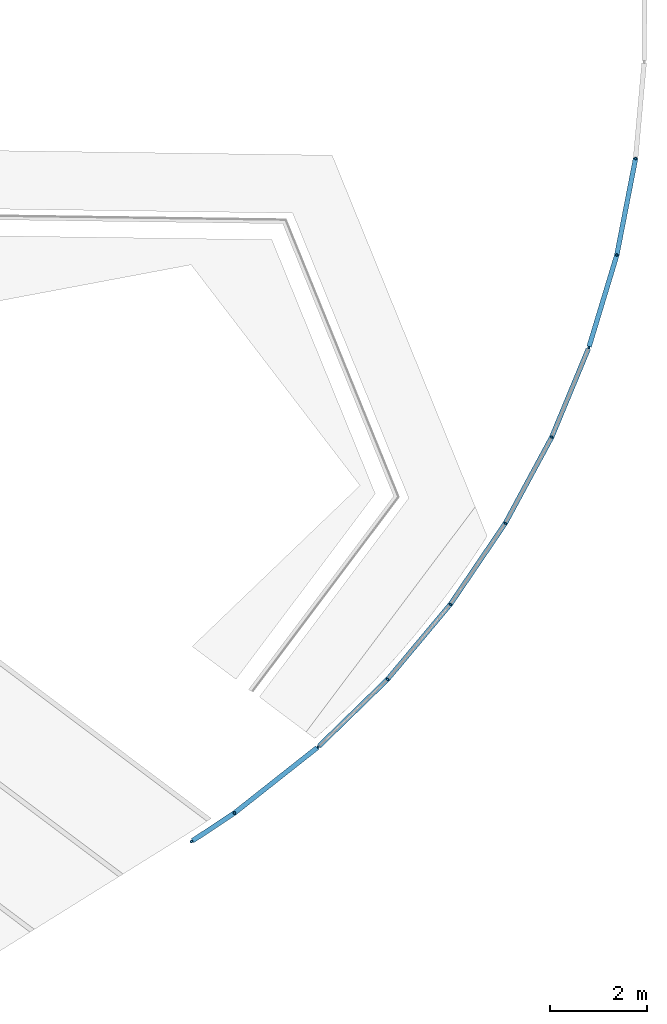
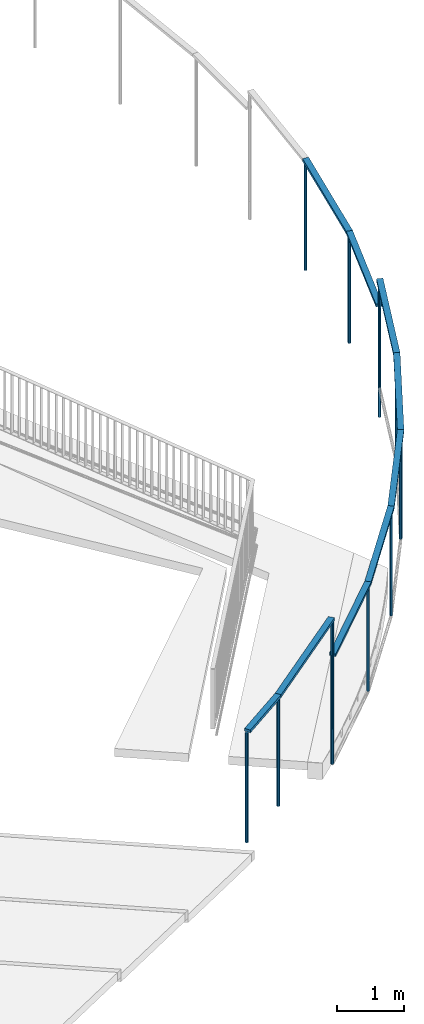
# One storey, part 14 of 33: 21 members, 3 elements without a shape of their own.
"""IFC2X3 building model written with IfcOpenShell, lengths in metres."""

import ifcopenshell
import ifcopenshell.guid

model = None  # the IFC model being written
_history = None  # IfcOwnerHistory: only IFC2X3 demands one
_inside = {}  # id of a spatial element -> (the spatial element, [elements in it])
_under = {}  # id of a project, library or spatial element -> (it, [spatial elements below it])
_declared = {}  # id of a project -> (the project, [libraries it declares])
_typed = {}  # id of a type object -> (the type object, [elements of that type])
_made_of = {}  # id of a material, layer set ... -> (it, [elements and type objects made of it])


def new_model(schema):
    """Start an empty IFC model of exactly this schema.

    Asked for "IFC4X3", IfcOpenShell would pick the latest addendum, in which some entities
    have other attributes; the version numbers below select the first issue.
    IFC2X3 requires an IfcOwnerHistory on every rooted entity: one is made here for all.
    """
    global model, _history
    if schema == "IFC4X3":
        model = ifcopenshell.file(schema_version=(4, 3, 0, 0))
    else:
        model = ifcopenshell.file(schema=schema)
    _inside.clear()
    _under.clear()
    _declared.clear()
    _typed.clear()
    _made_of.clear()
    _history = None
    if model.schema == "IFC2X3":
        org = make("IfcOrganization", Name="unknown")
        user = make(
            "IfcPersonAndOrganization",
            ThePerson=make("IfcPerson", FamilyName="unknown"),
            TheOrganization=org,
        )
        app = make(
            "IfcApplication",
            ApplicationDeveloper=org,
            Version="unknown",
            ApplicationFullName="unknown",
            ApplicationIdentifier="unknown",
        )
        _history = make(
            "IfcOwnerHistory",
            OwningUser=user,
            OwningApplication=app,
            ChangeAction="ADDED",
            CreationDate=0,
        )
    return model


def make(cls, **values):
    """One entity of the class cls with the attributes given. An attribute that is None is left unset."""
    return model.create_entity(
        cls, **{name: value for name, value in values.items() if value is not None}
    )


def entity(cls, *values):
    """Any entity or typed value of the class cls, its attributes in the order of the schema. None: left unset."""
    e = model.create_entity(cls)
    for i, value in enumerate(values):
        if value is not None:
            e[i] = value
    return e


def rooted(cls, **values):
    """An entity with a GlobalId (a new one), such as an element, a storey or a relation."""
    return make(cls, GlobalId=ifcopenshell.guid.new(), OwnerHistory=_history, **values)


def si_unit(unit_type, name, prefix=None):
    """IfcSIUnit, for example si_unit("LENGTHUNIT", "METRE", prefix="MILLI")."""
    return make("IfcSIUnit", UnitType=unit_type, Prefix=prefix, Name=name)


def converted_unit(unit_type, name, factor, base, dimensions=None, offset=None):
    """IfcConversionBasedUnit, such as the inch: factor (a typed value) times the base unit."""
    return make(
        "IfcConversionBasedUnit"
        if offset is None
        else "IfcConversionBasedUnitWithOffset",
        ConversionOffset=offset,
        Dimensions=None
        if dimensions is None
        else entity("IfcDimensionalExponents", *dimensions),
        UnitType=unit_type,
        Name=name,
        ConversionFactor=make(
            "IfcMeasureWithUnit", ValueComponent=factor, UnitComponent=base
        ),
    )


def derived_unit(unit_type, elements):
    """IfcDerivedUnit: a product of units, each with its exponent."""
    return make(
        "IfcDerivedUnit",
        Elements=[
            make("IfcDerivedUnitElement", Unit=unit, Exponent=power)
            for unit, power in elements
        ],
        UnitType=unit_type,
    )


def assignment(units):
    """IfcUnitAssignment: the units of a project."""
    return None if units is None else make("IfcUnitAssignment", Units=units)


def point(xyz):
    """IfcCartesianPoint."""
    return None if xyz is None else make("IfcCartesianPoint", Coordinates=xyz)


def direction(xyz):
    """IfcDirection."""
    return None if xyz is None else make("IfcDirection", DirectionRatios=xyz)


def frame(location, z_axis=None, x_axis=None):
    """IfcAxis2Placement3D, a coordinate frame: its origin and axes. An axis left out is left unset."""
    return make(
        "IfcAxis2Placement3D",
        Location=point(location),
        Axis=direction(z_axis),
        RefDirection=direction(x_axis),
    )


def frame_2d(location, x_axis=None):
    """IfcAxis2Placement2D, a coordinate frame in the plane: its origin and x axis."""
    return make(
        "IfcAxis2Placement2D", Location=point(location), RefDirection=direction(x_axis)
    )


def origin():
    """The frame at (0, 0, 0) with its axes left unset."""
    return frame((0.0, 0.0, 0.0))


def origin_2d_with_axis():
    """The frame at (0, 0) in the plane with the x axis (1, 0) written out."""
    return frame_2d((0.0, 0.0), x_axis=(1.0, 0.0))


def place(relative_to, where):
    """IfcLocalPlacement: puts the frame where relative to a parent placement (None: the world)."""
    return make(
        "IfcLocalPlacement", PlacementRelTo=relative_to, RelativePlacement=where
    )


def context(
    kind, dimensions, precision=None, world=None, true_north=None, identifier=None
):
    """IfcGeometricRepresentationContext, for example the 3D "Model" context."""
    return make(
        "IfcGeometricRepresentationContext",
        ContextIdentifier=identifier,
        ContextType=kind,
        CoordinateSpaceDimension=dimensions,
        Precision=precision,
        WorldCoordinateSystem=world,
        TrueNorth=true_north,
    )


def subcontext(parent, identifier, kind, view, scale=None):
    """IfcGeometricRepresentationSubContext, for example "Body" below "Model"."""
    return make(
        "IfcGeometricRepresentationSubContext",
        ContextIdentifier=identifier,
        ContextType=kind,
        ParentContext=parent,
        TargetScale=scale,
        TargetView=view,
    )


def project(units=None, contexts=None):
    """IfcProject with its units and contexts."""
    return rooted(
        "IfcProject",
        Name="project",
        RepresentationContexts=contexts,
        UnitsInContext=assignment(units),
    )


def spatial(cls, under=None, at=None, **own):
    """A site, building, storey or space (cls), placed at a placement, below another one or the project."""
    s = rooted(cls, ObjectPlacement=at, **own)
    if under is not None:
        _under.setdefault(under.id(), (under, []))[1].append(s)
    return s


def profile(cls, at=None, kind="AREA", **sizes):
    """A parametric profile (cls). Its sizes go by their IFC names, for example OverallWidth=200.0."""
    return make(cls, ProfileType=kind, Position=at, **sizes)


def rectangle(**sizes):
    """IfcRectangleProfileDef."""
    return profile("IfcRectangleProfileDef", **sizes)


def circle(**sizes):
    """IfcCircleProfileDef."""
    return profile("IfcCircleProfileDef", **sizes)


def extrude(swept, where, along, depth):
    """IfcExtrudedAreaSolid: the profile swept, set in the frame where, extruded along a direction by depth."""
    return make(
        "IfcExtrudedAreaSolid",
        SweptArea=swept,
        Position=where,
        ExtrudedDirection=direction(along),
        Depth=depth,
    )


def clip(a, b, op="DIFFERENCE"):
    """IfcBooleanClippingResult: the solid a cut by the half space b."""
    return make(
        "IfcBooleanClippingResult", Operator=op, FirstOperand=a, SecondOperand=b
    )


def halfspace(plane, agree):
    """IfcHalfSpaceSolid: all space on one side of the plane z = 0 of the frame plane."""
    return make(
        "IfcHalfSpaceSolid",
        BaseSurface=make("IfcPlane", Position=plane),
        AgreementFlag=agree,
    )


def shape(context_of_items, identifier, shape_type, items):
    """IfcShapeRepresentation: the items that make up one representation, for example the "Body"."""
    return make(
        "IfcShapeRepresentation",
        ContextOfItems=context_of_items,
        RepresentationIdentifier=identifier,
        RepresentationType=shape_type,
        Items=items,
    )


def source(mapping_origin, context_of_items, identifier, shape_type, items):
    """IfcRepresentationMap: a shape defined once, which mapped items show again and again."""
    return make(
        "IfcRepresentationMap",
        MappingOrigin=mapping_origin,
        MappedRepresentation=shape(context_of_items, identifier, shape_type, items),
    )


def transform(
    local_origin,
    x_axis=None,
    y_axis=None,
    z_axis=None,
    scale=None,
    scale2=None,
    scale3=None,
    uniform=True,
):
    """IfcCartesianTransformationOperator3D, or its non-uniform kind. x_axis, y_axis, z_axis: its Axis1, 2, 3."""
    if uniform:
        return make(
            "IfcCartesianTransformationOperator3D",
            Axis1=direction(x_axis),
            Axis2=direction(y_axis),
            LocalOrigin=point(local_origin),
            Scale=scale,
            Axis3=direction(z_axis),
        )
    return make(
        "IfcCartesianTransformationOperator3DnonUniform",
        Axis1=direction(x_axis),
        Axis2=direction(y_axis),
        LocalOrigin=point(local_origin),
        Scale=scale,
        Axis3=direction(z_axis),
        Scale2=scale2,
        Scale3=scale3,
    )


def mapped(mapping_source, mapping_target):
    """IfcMappedItem: shows the shape of a source again, moved by a transform."""
    return make(
        "IfcMappedItem", MappingSource=mapping_source, MappingTarget=mapping_target
    )


def material(Name=None, Category=None):
    """IfcMaterial."""
    return make("IfcMaterial", Name=Name, Category=Category)


def made_of(thing, what):
    """Note that an element or type object is made of a material, layer set ...; save() writes the relation."""
    if what is not None:
        _made_of.setdefault(what.id(), (what, []))[1].append(thing)
    return thing


def type_object(cls, material=None, **own):
    """A type object (cls), such as IfcWallType, which elements share."""
    return made_of(rooted(cls, **own), material)


def type_shapes(of_type, sources):
    """Give a type object the sources (RepresentationMaps) that its elements show as mapped items."""
    of_type.RepresentationMaps = sources


def element(
    cls,
    number,
    at=None,
    inside=None,
    cuts=None,
    type_object=None,
    material=None,
    context=None,
    identifier="Body",
    shape_type=None,
    held_by="IfcProductDefinitionShape",
    body=None,
    shapes=None,
    **own,
):
    """One element of the class cls, such as IfcWall. Its Tag is "e" and its number.

    at: its placement. inside: the storey or other place that contains it. cuts: it is an
    opening in that element (IfcRelVoidsElement). A single representation is given by context,
    identifier, shape_type and body (its items); several are given by shapes. held_by: the class
    of the entity that holds the representations. save() writes the other relations.
    """
    e = rooted(cls, Tag="e%d" % number, ObjectPlacement=at, **own)
    if body is not None:
        shapes = [shape(context, identifier, shape_type, body)]
    if shapes is not None:
        e.Representation = make(held_by, Representations=shapes)
    if inside is not None:
        _inside.setdefault(inside.id(), (inside, []))[1].append(e)
    if cuts is not None:
        rooted(
            "IfcRelVoidsElement", RelatingBuildingElement=cuts, RelatedOpeningElement=e
        )
    if type_object is not None:
        _typed.setdefault(type_object.id(), (type_object, []))[1].append(e)
    return made_of(e, material)


def aggregate(whole, parts):
    """IfcRelAggregates: a whole, such as a stair, and the parts it consists of."""
    return rooted("IfcRelAggregates", RelatingObject=whole, RelatedObjects=parts)


def save(model, path):
    """Write the relations noted so far, then the file.

    IfcRelAggregates (storeys below a building ...), IfcRelContainedInSpatialStructure (elements
    in a storey), IfcRelDefinesByType, IfcRelAssociatesMaterial and IfcRelDeclares: one each for
    every whole, place, type object, material and project.
    """
    for whole, parts in _under.values():
        aggregate(whole, parts)
    for where, things in _inside.values():
        rooted(
            "IfcRelContainedInSpatialStructure",
            RelatedElements=things,
            RelatingStructure=where,
        )
    for kind, things in _typed.values():
        rooted("IfcRelDefinesByType", RelatedObjects=things, RelatingType=kind)
    for what, things in _made_of.values():
        rooted("IfcRelAssociatesMaterial", RelatedObjects=things, RelatingMaterial=what)
    for by, libraries in _declared.values():
        rooted("IfcRelDeclares", RelatingContext=by, RelatedDefinitions=libraries)
    model.write(path)


model = new_model("IFC2X3")

# Units and contexts
model_context = context("Model", 3, precision=1e-05, world=origin(), true_north=direction((6.123031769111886e-17, 1.0)))
body_context = subcontext(model_context, "Body", "Model", "MODEL_VIEW")
ifc_project = project(units=[si_unit("LENGTHUNIT", "METRE"), si_unit("AREAUNIT", "SQUARE_METRE"), si_unit("VOLUMEUNIT", "CUBIC_METRE"), converted_unit("PLANEANGLEUNIT", "DEGREE", entity("IfcRatioMeasure", 0.017453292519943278), si_unit("PLANEANGLEUNIT", "RADIAN"), dimensions=[0, 0, 0, 0, 0, 0, 0]), si_unit("MASSUNIT", "GRAM", prefix="KILO"), derived_unit("MASSDENSITYUNIT", [(si_unit("MASSUNIT", "GRAM", prefix="KILO"), 1), (si_unit("LENGTHUNIT", "METRE"), -3)]), derived_unit("IONCONCENTRATIONUNIT", [(si_unit("MASSUNIT", "GRAM", prefix="KILO"), 1), (si_unit("LENGTHUNIT", "METRE"), -3)]), derived_unit("MOMENTOFINERTIAUNIT", [(si_unit("LENGTHUNIT", "METRE"), 4)]), si_unit("TIMEUNIT", "SECOND"), si_unit("FREQUENCYUNIT", "HERTZ"), si_unit("THERMODYNAMICTEMPERATUREUNIT", "DEGREE_CELSIUS"), derived_unit("THERMALTRANSMITTANCEUNIT", [(si_unit("MASSUNIT", "GRAM", prefix="KILO"), 1), (si_unit("THERMODYNAMICTEMPERATUREUNIT", "KELVIN"), -1), (si_unit("TIMEUNIT", "SECOND"), -3)]), derived_unit("THERMALCONDUCTANCEUNIT", [(si_unit("MASSUNIT", "GRAM", prefix="KILO"), 1), (si_unit("THERMODYNAMICTEMPERATUREUNIT", "KELVIN"), -1), (si_unit("TIMEUNIT", "SECOND"), -3), (si_unit("LENGTHUNIT", "METRE"), 1)]), derived_unit("VOLUMETRICFLOWRATEUNIT", [(si_unit("LENGTHUNIT", "METRE"), 3), (si_unit("TIMEUNIT", "SECOND"), -1)]), derived_unit("MASSFLOWRATEUNIT", [(si_unit("MASSUNIT", "GRAM", prefix="KILO"), 1), (si_unit("TIMEUNIT", "SECOND"), -1)]), derived_unit("ROTATIONALFREQUENCYUNIT", [(si_unit("TIMEUNIT", "SECOND"), -1)]), si_unit("ELECTRICCURRENTUNIT", "AMPERE"), si_unit("ELECTRICVOLTAGEUNIT", "VOLT"), si_unit("POWERUNIT", "WATT"), si_unit("FORCEUNIT", "NEWTON", prefix="KILO"), si_unit("ILLUMINANCEUNIT", "LUX"), si_unit("LUMINOUSFLUXUNIT", "LUMEN"), si_unit("LUMINOUSINTENSITYUNIT", "CANDELA"), derived_unit("USERDEFINED", [(si_unit("MASSUNIT", "GRAM", prefix="KILO"), -1), (si_unit("LENGTHUNIT", "METRE"), -2), (si_unit("TIMEUNIT", "SECOND"), 3), (si_unit("LUMINOUSFLUXUNIT", "LUMEN"), 1)]), derived_unit("USERDEFINED", [(si_unit("MASSUNIT", "GRAM", prefix="KILO"), 1), (si_unit("TIMEUNIT", "SECOND"), -3), (si_unit("LENGTHUNIT", "METRE"), 3), (si_unit("ELECTRICCURRENTUNIT", "AMPERE"), -2)]), derived_unit("SOUNDPOWERUNIT", [(si_unit("MASSUNIT", "GRAM", prefix="KILO"), 1), (si_unit("TIMEUNIT", "SECOND"), -3), (si_unit("LENGTHUNIT", "METRE"), 2)]), derived_unit("SOUNDPRESSUREUNIT", [(si_unit("MASSUNIT", "GRAM", prefix="KILO"), 1), (si_unit("LENGTHUNIT", "METRE"), -1), (si_unit("TIMEUNIT", "SECOND"), -2)]), derived_unit("LINEARVELOCITYUNIT", [(si_unit("LENGTHUNIT", "METRE"), 1), (si_unit("TIMEUNIT", "SECOND"), -1)]), si_unit("PRESSUREUNIT", "PASCAL"), derived_unit("USERDEFINED", [(si_unit("MASSUNIT", "GRAM", prefix="KILO"), 1), (si_unit("LENGTHUNIT", "METRE"), -2), (si_unit("TIMEUNIT", "SECOND"), -2)]), derived_unit("LINEARFORCEUNIT", [(si_unit("MASSUNIT", "GRAM", prefix="KILO"), 1), (si_unit("TIMEUNIT", "SECOND"), -2)]), derived_unit("PLANARFORCEUNIT", [(si_unit("MASSUNIT", "GRAM", prefix="KILO"), 1), (si_unit("LENGTHUNIT", "METRE"), -1), (si_unit("TIMEUNIT", "SECOND"), -2)]), derived_unit("SPECIFICHEATCAPACITYUNIT", [(si_unit("THERMODYNAMICTEMPERATUREUNIT", "KELVIN"), -1), (si_unit("LENGTHUNIT", "METRE"), 2), (si_unit("TIMEUNIT", "SECOND"), -2)]), derived_unit("HEATINGVALUEUNIT", [(si_unit("LENGTHUNIT", "METRE"), 2), (si_unit("TIMEUNIT", "SECOND"), -2)]), derived_unit("VAPORPERMEABILITYUNIT", [(si_unit("LENGTHUNIT", "METRE"), -1), (si_unit("TIMEUNIT", "SECOND"), 1)]), derived_unit("DYNAMICVISCOSITYUNIT", [(si_unit("MASSUNIT", "GRAM", prefix="KILO"), 1), (si_unit("TIMEUNIT", "SECOND"), -1), (si_unit("LENGTHUNIT", "METRE"), -1)]), derived_unit("THERMALEXPANSIONCOEFFICIENTUNIT", [(si_unit("THERMODYNAMICTEMPERATUREUNIT", "KELVIN"), -1)]), derived_unit("MODULUSOFELASTICITYUNIT", [(si_unit("MASSUNIT", "GRAM", prefix="KILO"), 1), (si_unit("LENGTHUNIT", "METRE"), -1), (si_unit("TIMEUNIT", "SECOND"), -2)]), derived_unit("ISOTHERMALMOISTURECAPACITYUNIT", [(si_unit("LENGTHUNIT", "METRE"), 3), (si_unit("MASSUNIT", "GRAM", prefix="KILO"), -1)]), derived_unit("MOISTUREDIFFUSIVITYUNIT", [(si_unit("TIMEUNIT", "SECOND"), -1), (si_unit("LENGTHUNIT", "METRE"), 2)])], contexts=[model_context])

# Site, building, storey
site_placement = place(None, origin())
site = spatial("IfcSite", under=ifc_project, at=site_placement, Name="Superficie", CompositionType="ELEMENT")
building_placement = place(site_placement, frame((0.0, 0.0, 235.0), z_axis=(0.0, 0.0, 1.0), x_axis=(-0.7996477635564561, 0.6004693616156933, 0.0)))
building = spatial("IfcBuilding", under=site, at=building_placement, CompositionType="ELEMENT")
storey_placement = place(building_placement, origin())
storey = spatial("IfcBuildingStorey", under=building, at=storey_placement, Name="P0- Escola", CompositionType="ELEMENT", Elevation=0.0)

# Curtain wall, member
curtain_wall_type = type_object("IfcCurtainWallType", Name="Muro cortina:SER EXT- Tanca exterior", PredefinedType="NOTDEFINED")
curtain_wall_1_placement = place(storey_placement, origin())
curtain_wall_1 = element("IfcCurtainWall", 1, at=curtain_wall_1_placement, inside=storey, type_object=curtain_wall_type, Name="Muro cortina:SER EXT- Tanca exterior", ObjectType="Muro cortina:SER EXT- Tanca exterior")
ifc_material_1 = material(Name="Acero inoxidable")
member_type_1 = type_object("IfcMemberType", Name="Montante circular:Perfil Tanca exterior", PredefinedType="MULLION", material=ifc_material_1)
shared_shape_1 = source(origin(), body_context, "Body", "SweptSolid", [
    extrude(circle(Radius=0.025, at=frame_2d((-2.1149748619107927e-18, -4.0388614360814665e-17), x_axis=(1.0, 0.0))), frame((0.0, 0.0, -2.0), z_axis=(0.0, 0.0, 1.0), x_axis=(-1.0, 0.0, 0.0)), (0.0, 0.0, 1.0), 1.9999999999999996),
])
type_shapes(member_type_1, [shared_shape_1])
member_1_placement = place(curtain_wall_1_placement, frame((-11.086690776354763, -40.76405879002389, -3.9749999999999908), z_axis=(0.0, 0.0, -1.0), x_axis=(0.3091641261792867, 0.9510086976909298, 0.0)))
member_1 = element("IfcMember", 2, at=member_1_placement, type_object=member_type_1, material=ifc_material_1, Name="Montante circular:Perfil Tanca exterior", ObjectType="Montante circular:Perfil Tanca exterior", context=body_context, shape_type="MappedRepresentation", body=[
    mapped(shared_shape_1, transform((0.0, 0.0, 0.0), scale=1.0)),
])

# Curtain wall, members
curtain_wall_2_placement = place(storey_placement, origin())
curtain_wall_2 = element("IfcCurtainWall", 3, at=curtain_wall_2_placement, inside=storey, type_object=curtain_wall_type, Name="Muro cortina:SER EXT- Tanca exterior", ObjectType="Muro cortina:SER EXT- Tanca exterior")
member_2_placement = place(curtain_wall_2_placement, frame((-10.485725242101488, -54.63118696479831, -5.17499999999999), z_axis=(0.0, 0.0, -1.0), x_axis=(0.3904419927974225, -0.9206275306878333, 0.0)))
member_2 = element("IfcMember", 4, at=member_2_placement, type_object=member_type_1, material=ifc_material_1, Name="Montante circular:Perfil Tanca exterior", ObjectType="Montante circular:Perfil Tanca exterior", context=body_context, shape_type="MappedRepresentation", body=[
    mapped(shared_shape_1, transform((0.0, 0.0, 0.0), scale=1.0)),
])
member_3_placement = place(curtain_wall_2_placement, frame((-9.60222250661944, -56.44914465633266, -5.17499999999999), z_axis=(0.0, 0.0, -1.0), x_axis=(0.48261360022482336, -0.8758333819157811, 0.0)))
member_3 = element("IfcMember", 5, at=member_3_placement, type_object=member_type_1, material=ifc_material_1, Name="Montante circular:Perfil Tanca exterior", ObjectType="Montante circular:Perfil Tanca exterior", context=body_context, shape_type="MappedRepresentation", body=[
    mapped(shared_shape_1, transform((0.0, 0.0, 0.0), scale=1.0)),
])

# Member
member_type_2 = type_object("IfcMemberType", Name="Montante circular:Perfil Tanca exterior", PredefinedType="MULLION", material=ifc_material_1)
shared_shape_2 = source(origin(), body_context, "Body", "SweptSolid", [
    extrude(circle(Radius=0.025, at=frame_2d((-1.304992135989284e-31, 4.038861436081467e-17), x_axis=(1.0, 0.0))), frame((-0.025, 0.0, -2.0)), (0.0, 0.0, 1.0), 1.9999999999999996),
])
type_shapes(member_type_2, [shared_shape_2])
member_4_placement = place(curtain_wall_1_placement, frame((-11.652832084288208, -42.90593946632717, -1.97499999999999), z_axis=(0.0, 0.0, 1.0), x_axis=(-0.255543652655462, -0.9667975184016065, 0.0)))
member_4 = element("IfcMember", 6, at=member_4_placement, type_object=member_type_2, material=ifc_material_1, Name="Montante circular:Perfil Tanca exterior", ObjectType="Montante circular:Perfil Tanca exterior", context=body_context, shape_type="MappedRepresentation", body=[
    mapped(shared_shape_2, transform((0.0, 0.0, 0.0), scale=1.0)),
])

member_5_placement = place(curtain_wall_2_placement, frame((-11.176073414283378, -52.740326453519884, -3.17499999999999), z_axis=(0.0, 0.0, 1.0), x_axis=(-0.34295488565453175, 0.9393518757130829, 0.0)))
member_5 = element("IfcMember", 7, at=member_5_placement, type_object=member_type_2, material=ifc_material_1, Name="Montante circular:Perfil Tanca exterior", ObjectType="Montante circular:Perfil Tanca exterior", context=body_context, shape_type="MappedRepresentation", body=[
    mapped(shared_shape_2, transform((0.0, 0.0, 0.0), scale=1.0)),
])

member_type_3 = type_object("IfcMemberType", Name="Montante circular:Perfil Tanca exterior", PredefinedType="MULLION", material=ifc_material_1)
shared_shape_3 = source(origin(), body_context, "Body", "SweptSolid", [
    extrude(circle(Radius=0.025, at=frame_2d((1.3661718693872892e-31, -4.46185640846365e-17), x_axis=(1.0, 0.0))), frame((-0.025, 0.0, -2.0), z_axis=(0.0, 0.0, 1.0), x_axis=(-1.0, 0.0, 0.0)), (0.0, 0.0, 1.0), 1.9999999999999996),
])
type_shapes(member_type_3, [shared_shape_3])
member_6_placement = place(curtain_wall_1_placement, frame((-10.723837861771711, -39.743591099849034, -3.9749999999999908), z_axis=(0.0, 0.0, -1.0), x_axis=(0.3350260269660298, 0.9422088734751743, 0.0)))
member_6 = element("IfcMember", 8, at=member_6_placement, type_object=member_type_3, material=ifc_material_1, Name="Montante circular:Perfil Tanca exterior", ObjectType="Montante circular:Perfil Tanca exterior", context=body_context, shape_type="MappedRepresentation", body=[
    mapped(shared_shape_3, transform((0.0, 0.0, 0.0), scale=1.0)),
])

ifc_material_2 = material(Name="_Formigó- Solera- T1- STR")
member_type_4 = type_object("IfcMemberType", Name="Montante rectangular:Montante rectangular 100x50", PredefinedType="MULLION", material=ifc_material_2)
shared_shape_4 = source(origin(), body_context, "Body", "SweptSolid", [
    clip(clip(extrude(rectangle(XDim=0.1, YDim=0.05000000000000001, at=origin_2d_with_axis()), frame((-0.025000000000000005, 0.0, -1.0851406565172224), z_axis=(0.0, 0.0, 1.0), x_axis=(0.0, -1.0, 0.0)), (0.0, 0.0, 1.0), 1.0364882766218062), halfspace(frame((-0.3048, 0.0, -1.0830588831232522), z_axis=(0.0, 0.041599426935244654, -0.9991343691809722), x_axis=(0.0, 0.9991343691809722, 0.041599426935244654)), False)), halfspace(frame((-93.49000000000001, 91.4045145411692, -2.5477090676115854), z_axis=(0.0, 0.02731548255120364, 0.9996268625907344), x_axis=(1.0, 0.0, 0.0)), False)),
])
type_shapes(member_type_4, [shared_shape_4])
member_7_placement = place(curtain_wall_1_placement, frame((-10.723837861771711, -39.743591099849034, -1.92499999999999), z_axis=(0.3350260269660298, 0.9422088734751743, 0.0), x_axis=(0.0, 0.0, 1.0)))
member_7 = element("IfcMember", 9, at=member_7_placement, type_object=member_type_4, material=ifc_material_2, Name="Montante rectangular:Montante rectangular 100x50", ObjectType="Montante rectangular:Montante rectangular 100x50", context=body_context, shape_type="MappedRepresentation", body=[
    mapped(shared_shape_4, transform((0.0, 0.0, 0.0), scale=1.0)),
])

member_type_5 = type_object("IfcMemberType", Name="Montante rectangular:Montante rectangular 100x50", PredefinedType="MULLION", material=ifc_material_2)
shared_shape_5 = source(origin(), body_context, "Body", "SweptSolid", [
    clip(clip(extrude(rectangle(XDim=0.10000000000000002, YDim=0.05000000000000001, at=frame_2d((-6.591949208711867e-17, 0.0), x_axis=(1.0, 0.0))), frame((-0.025000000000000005, 0.0, -2.1681586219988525), z_axis=(0.0, 0.0, 1.0), x_axis=(0.0, -1.0, 0.0)), (0.0, 0.0, 1.0), 2.1702403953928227), halfspace(frame((91.39, 91.29435676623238, 2.9436815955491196), z_axis=(0.0, 0.055874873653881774, -0.9984377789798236), x_axis=(-1.0, 0.0, 0.0)), False)), halfspace(frame((-0.3048, 0.0, 0.0), z_axis=(0.0, 0.04159942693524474, 0.9991343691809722), x_axis=(0.0, 0.9991343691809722, -0.04159942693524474)), False)),
])
type_shapes(member_type_5, [shared_shape_5])
member_8_placement = place(curtain_wall_1_placement, frame((-11.086690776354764, -40.76405879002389, -1.92499999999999), z_axis=(0.255543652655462, 0.9667975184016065, 0.0), x_axis=(0.0, 0.0, 1.0)))
member_8 = element("IfcMember", 10, at=member_8_placement, type_object=member_type_5, material=ifc_material_2, Name="Montante rectangular:Montante rectangular 100x50", ObjectType="Montante rectangular:Montante rectangular 100x50", context=body_context, shape_type="MappedRepresentation", body=[
    mapped(shared_shape_5, transform((0.0, 0.0, 0.0), scale=1.0)),
])

aggregate(curtain_wall_1, [member_1, member_4, member_6, member_7, member_8])

# Curtain wall, members
curtain_wall_3_placement = place(storey_placement, origin())
curtain_wall_3 = element("IfcCurtainWall", 11, at=curtain_wall_3_placement, inside=storey, type_object=curtain_wall_type, Name="Muro cortina:SER EXT- Tanca exterior", ObjectType="Muro cortina:SER EXT- Tanca exterior")
member_type_6 = type_object("IfcMemberType", Name="Montante circular:Perfil Tanca exterior", PredefinedType="MULLION", material=ifc_material_1)
shared_shape_6 = source(origin(), body_context, "Body", "SweptSolid", [
    extrude(circle(Radius=0.025, at=frame_2d((-2.1149748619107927e-18, -4.0388614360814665e-17), x_axis=(1.0, 0.0))), frame((0.0, 0.0, -1.9500000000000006), z_axis=(0.0, 0.0, 1.0), x_axis=(-1.0, 0.0, 0.0)), (0.0, 0.0, 1.0), 1.9500000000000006),
])
type_shapes(member_type_6, [shared_shape_6])
member_9_placement = place(curtain_wall_3_placement, frame((-11.951597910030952, -44.84255791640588, -4.624999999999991), z_axis=(0.0, 0.0, -1.0), x_axis=(0.10343907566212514, 0.9946357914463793, 0.0)))
member_9 = element("IfcMember", 12, at=member_9_placement, type_object=member_type_6, material=ifc_material_1, Name="Montante circular:Perfil Tanca exterior", ObjectType="Montante circular:Perfil Tanca exterior", context=body_context, shape_type="MappedRepresentation", body=[
    mapped(shared_shape_6, transform((0.0, 0.0, 0.0), scale=1.0)),
])
member_10_placement = place(curtain_wall_3_placement, frame((-12.057894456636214, -46.849210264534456, -4.624999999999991), z_axis=(0.0, 0.0, -1.0), x_axis=(0.0, 1.0, 0.0)))
member_10 = element("IfcMember", 13, at=member_10_placement, type_object=member_type_6, material=ifc_material_1, Name="Montante circular:Perfil Tanca exterior", ObjectType="Montante circular:Perfil Tanca exterior", context=body_context, shape_type="MappedRepresentation", body=[
    mapped(shared_shape_6, transform((0.0, 0.0, 0.0), scale=1.0)),
])
member_11_placement = place(curtain_wall_3_placement, frame((-11.960511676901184, -48.8563149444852, -4.624999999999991), z_axis=(0.0, 0.0, -1.0), x_axis=(-0.09902029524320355, 0.9950854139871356, 0.0)))
member_11 = element("IfcMember", 14, at=member_11_placement, type_object=member_type_6, material=ifc_material_1, Name="Montante circular:Perfil Tanca exterior", ObjectType="Montante circular:Perfil Tanca exterior", context=body_context, shape_type="MappedRepresentation", body=[
    mapped(shared_shape_6, transform((0.0, 0.0, 0.0), scale=1.0)),
])
member_12_placement = place(curtain_wall_3_placement, frame((-11.66077588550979, -50.84164838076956, -4.624999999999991), z_axis=(0.0, 0.0, -1.0), x_axis=(-0.19916321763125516, 0.9799663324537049, 0.0)))
member_12 = element("IfcMember", 15, at=member_12_placement, type_object=member_type_6, material=ifc_material_1, Name="Montante circular:Perfil Tanca exterior", ObjectType="Montante circular:Perfil Tanca exterior", context=body_context, shape_type="MappedRepresentation", body=[
    mapped(shared_shape_6, transform((0.0, 0.0, 0.0), scale=1.0)),
])
member_type_7 = type_object("IfcMemberType", Name="Montante circular:Perfil Tanca exterior", PredefinedType="MULLION", material=ifc_material_1)
shared_shape_7 = source(origin(), body_context, "Body", "SweptSolid", [
    extrude(circle(Radius=0.025, at=frame_2d((-1.304992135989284e-31, 4.038861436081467e-17), x_axis=(1.0, 0.0))), frame((-0.025, 0.0, -1.9500000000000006)), (0.0, 0.0, 1.0), 1.9500000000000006),
])
type_shapes(member_type_7, [shared_shape_7])
member_13_placement = place(curtain_wall_3_placement, frame((-11.161278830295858, -52.78804384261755, -2.67499999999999), z_axis=(0.0, 0.0, 1.0), x_axis=(0.24857206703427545, -0.968613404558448, 0.0)))
member_13 = element("IfcMember", 16, at=member_13_placement, type_object=member_type_7, material=ifc_material_1, Name="Montante circular:Perfil Tanca exterior", ObjectType="Montante circular:Perfil Tanca exterior", context=body_context, shape_type="MappedRepresentation", body=[
    mapped(shared_shape_7, transform((0.0, 0.0, 0.0), scale=1.0)),
])
member_type_8 = type_object("IfcMemberType", Name="Montante circular:Perfil Tanca exterior", PredefinedType="MULLION", material=ifc_material_1)
shared_shape_8 = source(origin(), body_context, "Body", "SweptSolid", [
    extrude(circle(Radius=0.025, at=frame_2d((1.3661718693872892e-31, -4.46185640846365e-17), x_axis=(1.0, 0.0))), frame((-0.025, 0.0, -2.0), z_axis=(0.0, 0.0, 1.0), x_axis=(-1.0, 0.0, 0.0)), (0.0, 0.0, 1.0), 2.000000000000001),
])
type_shapes(member_type_8, [shared_shape_8])
member_14_placement = place(curtain_wall_3_placement, frame((-11.642714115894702, -42.85697402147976, -4.624999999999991), z_axis=(0.0, 0.0, -1.0), x_axis=(0.15371438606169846, 0.9881153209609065, 0.0)))
member_14 = element("IfcMember", 17, at=member_14_placement, type_object=member_type_8, material=ifc_material_1, Name="Montante circular:Perfil Tanca exterior", ObjectType="Montante circular:Perfil Tanca exterior", context=body_context, shape_type="MappedRepresentation", body=[
    mapped(shared_shape_8, transform((0.0, 0.0, 0.0), scale=1.0)),
])
member_type_9 = type_object("IfcMemberType", Name="Montante rectangular:Montante rectangular 100x50", PredefinedType="MULLION", material=ifc_material_2)
shared_shape_9 = source(origin(), body_context, "Body", "SweptSolid", [
    clip(clip(extrude(rectangle(XDim=0.10000000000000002, YDim=0.05000000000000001, at=frame_2d((-5.551115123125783e-17, 0.0), x_axis=(1.0, 0.0))), frame((-0.025000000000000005, 0.0, -1.9620030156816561), z_axis=(0.0, 0.0, 1.0), x_axis=(0.0, -1.0, 0.0)), (0.0, 0.0, 1.0), 1.9644759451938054), halfspace(frame((-0.3048, 0.0, -1.9594657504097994), z_axis=(0.0, 0.05068009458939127, -0.9987149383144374), x_axis=(0.0, 0.9987149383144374, 0.05068009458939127)), False)), halfspace(frame((-93.44, 91.31995995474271, -4.63412359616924), z_axis=(0.0, 0.050680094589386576, 0.9987149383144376), x_axis=(1.0, 0.0, 0.0)), False)),
])
type_shapes(member_type_9, [shared_shape_9])
member_15_placement = place(curtain_wall_3_placement, frame((-11.650399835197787, -42.9063797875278, -2.6249999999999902), z_axis=(0.15371438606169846, 0.9881153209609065, 0.0), x_axis=(0.0, 0.0, 1.0)))
member_15 = element("IfcMember", 18, at=member_15_placement, type_object=member_type_9, material=ifc_material_2, Name="Montante rectangular:Montante rectangular 100x50", ObjectType="Montante rectangular:Montante rectangular 100x50", context=body_context, shape_type="MappedRepresentation", body=[
    mapped(shared_shape_9, transform((0.0, 0.0, 0.0), scale=1.0)),
])
member_type_10 = type_object("IfcMemberType", Name="Montante rectangular:Montante rectangular 100x50", PredefinedType="MULLION", material=ifc_material_2)
shared_shape_10 = source(origin(), body_context, "Body", "SweptSolid", [
    clip(clip(extrude(rectangle(XDim=0.1, YDim=0.05000000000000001, at=origin_2d_with_axis()), frame((-0.025000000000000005, 0.0, -2.0120030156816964), z_axis=(0.0, 0.0, 1.0), x_axis=(0.0, -1.0, 0.0)), (0.0, 0.0, 1.0), 2.014540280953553), halfspace(frame((-0.3048, 0.0, -2.00946575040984), z_axis=(0.0, 0.05068009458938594, -0.9987149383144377), x_axis=(0.0, 0.9987149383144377, 0.05068009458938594)), False)), halfspace(frame((-0.3048, 0.0, 0.0), z_axis=(0.0, 0.050680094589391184, 0.9987149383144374), x_axis=(0.0, 0.9987149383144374, -0.050680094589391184)), False)),
])
type_shapes(member_type_10, [shared_shape_10])
member_16_placement = place(curtain_wall_3_placement, frame((-11.951597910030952, -44.84255791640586, -2.6249999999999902), z_axis=(0.05289791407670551, 0.9985999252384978, 0.0), x_axis=(0.0, 0.0, 1.0)))
member_16 = element("IfcMember", 19, at=member_16_placement, type_object=member_type_10, material=ifc_material_2, Name="Montante rectangular:Montante rectangular 100x50", ObjectType="Montante rectangular:Montante rectangular 100x50", context=body_context, shape_type="MappedRepresentation", body=[
    mapped(shared_shape_10, transform((0.0, 0.0, 0.0), scale=1.0)),
])
member_type_11 = type_object("IfcMemberType", Name="Montante rectangular:Montante rectangular 100x50", PredefinedType="MULLION", material=ifc_material_2)
shared_shape_11 = source(origin(), body_context, "Body", "SweptSolid", [
    clip(clip(extrude(rectangle(XDim=0.1, YDim=0.05000000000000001, at=origin_2d_with_axis()), frame((-0.025000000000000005, 0.0, -2.012001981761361), z_axis=(0.0, 0.0, 1.0), x_axis=(0.0, -1.0, 0.0)), (0.0, 0.0, 1.0), 2.014539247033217), halfspace(frame((-0.3048, 0.0, -2.009465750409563), z_axis=(0.0, 0.050659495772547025, -0.9987159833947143), x_axis=(0.0, 0.9987159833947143, 0.050659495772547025)), False)), halfspace(frame((-0.3048, 0.0, 0.0), z_axis=(0.0, 0.0506800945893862, 0.9987149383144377), x_axis=(0.0, 0.9987149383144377, -0.0506800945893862)), False)),
])
type_shapes(member_type_11, [shared_shape_11])
member_17_placement = place(curtain_wall_3_placement, frame((-12.057894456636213, -46.849210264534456, -2.6249999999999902), z_axis=(-0.048462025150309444, 0.998825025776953, 0.0), x_axis=(0.0, 0.0, 1.0)))
member_17 = element("IfcMember", 20, at=member_17_placement, type_object=member_type_11, material=ifc_material_2, Name="Montante rectangular:Montante rectangular 100x50", ObjectType="Montante rectangular:Montante rectangular 100x50", context=body_context, shape_type="MappedRepresentation", body=[
    mapped(shared_shape_11, transform((0.0, 0.0, 0.0), scale=1.0)),
])
member_type_12 = type_object("IfcMemberType", Name="Montante rectangular:Montante rectangular 100x50", PredefinedType="MULLION", material=ifc_material_2)
shared_shape_12 = source(origin(), body_context, "Body", "SweptSolid", [
    clip(clip(extrude(rectangle(XDim=0.1, YDim=0.05000000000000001, at=origin_2d_with_axis()), frame((-0.025000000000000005, 0.0, -2.0103684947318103), z_axis=(0.0, 0.0, 1.0), x_axis=(0.0, -1.0, 0.0)), (0.0, 0.0, 1.0), 2.0129047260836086), halfspace(frame((-0.3048, 0.0, -2.0078322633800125), z_axis=(0.0, 0.05065949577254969, -0.9987159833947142), x_axis=(0.0, 0.9987159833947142, 0.05065949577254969)), False)), halfspace(frame((-0.3048, 0.0, 0.0), z_axis=(0.0, 0.05065949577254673, 0.9987159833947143), x_axis=(0.0, 0.9987159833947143, -0.05065949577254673)), False)),
])
type_shapes(member_type_12, [shared_shape_12])
member_18_placement = place(curtain_wall_3_placement, frame((-11.96051167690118, -48.85631494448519, -2.6249999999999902), z_axis=(-0.14928328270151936, 0.9887944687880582, 0.0), x_axis=(0.0, 0.0, 1.0)))
member_18 = element("IfcMember", 21, at=member_18_placement, type_object=member_type_12, material=ifc_material_2, Name="Montante rectangular:Montante rectangular 100x50", ObjectType="Montante rectangular:Montante rectangular 100x50", context=body_context, shape_type="MappedRepresentation", body=[
    mapped(shared_shape_12, transform((0.0, 0.0, 0.0), scale=1.0)),
])
member_type_13 = type_object("IfcMemberType", Name="Montante rectangular:Montante rectangular 100x50", PredefinedType="MULLION", material=ifc_material_2)
shared_shape_13 = source(origin(), body_context, "Body", "SweptSolid", [
    clip(clip(extrude(rectangle(XDim=0.1, YDim=0.05000000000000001, at=origin_2d_with_axis()), frame((-0.025000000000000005, 0.0, -1.9619386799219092), z_axis=(0.0, 0.0, 1.0), x_axis=(0.0, -1.0, 0.0)), (0.0, 0.0, 1.0), 1.9644749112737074), halfspace(frame((91.39, 91.31995995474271, 2.6746578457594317), z_axis=(0.0, 0.05068009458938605, -0.9987149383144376), x_axis=(-1.0, 0.0, 0.0)), False)), halfspace(frame((-0.3048, 0.0, 0.0), z_axis=(0.0, 0.050659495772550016, 0.9987159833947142), x_axis=(0.0, 0.9987159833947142, -0.050659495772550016)), False)),
])
type_shapes(member_type_13, [shared_shape_13])
member_19_placement = place(curtain_wall_3_placement, frame((-11.660775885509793, -50.84164838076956, -2.6249999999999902), z_axis=(-0.24857206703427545, 0.968613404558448, 0.0), x_axis=(0.0, 0.0, 1.0)))
member_19 = element("IfcMember", 22, at=member_19_placement, type_object=member_type_13, material=ifc_material_2, Name="Montante rectangular:Montante rectangular 100x50", ObjectType="Montante rectangular:Montante rectangular 100x50", context=body_context, shape_type="MappedRepresentation", body=[
    mapped(shared_shape_13, transform((0.0, 0.0, 0.0), scale=1.0)),
])
aggregate(curtain_wall_3, [member_9, member_10, member_11, member_12, member_13, member_14, member_15, member_16, member_17, member_18, member_19])

# Member
member_type_14 = type_object("IfcMemberType", Name="Montante rectangular:Montante rectangular 100x50", PredefinedType="MULLION", material=ifc_material_2)
shared_shape_14 = source(origin(), body_context, "Body", "SweptSolid", [
    clip(clip(extrude(rectangle(XDim=0.1, YDim=0.05000000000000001, at=origin_2d_with_axis()), frame((-0.025000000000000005, 0.0, -1.96543118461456), z_axis=(0.0, 0.0, 1.0), x_axis=(0.0, -1.0, 0.0)), (0.0, 0.0, 1.0), 1.9679912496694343), halfspace(frame((91.39, 91.32342219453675, -6.6290719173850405), z_axis=(0.0, -0.0510287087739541, -0.9986971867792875), x_axis=(-1.0, 0.0, 0.0)), False)), halfspace(frame((0.3048, 0.0, 0.0), z_axis=(0.0, -0.05113431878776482, 0.9986917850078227), x_axis=(0.0, -0.9986917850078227, -0.05113431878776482)), False)),
])
type_shapes(member_type_14, [shared_shape_14])
member_20_placement = place(curtain_wall_2_placement, frame((-10.485725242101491, -54.63118696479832, -3.1249999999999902), z_axis=(0.3429548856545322, -0.9393518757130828, 0.0), x_axis=(0.0, 0.0, 1.0)))
member_20 = element("IfcMember", 23, at=member_20_placement, type_object=member_type_14, material=ifc_material_2, Name="Montante rectangular:Montante rectangular 100x50", ObjectType="Montante rectangular:Montante rectangular 100x50", context=body_context, shape_type="MappedRepresentation", body=[
    mapped(shared_shape_14, transform((0.0, 0.0, 0.0), scale=1.0)),
])

member_type_15 = type_object("IfcMemberType", Name="Montante rectangular:Montante rectangular 100x50", PredefinedType="MULLION", material=ifc_material_2)
shared_shape_15 = source(origin(), body_context, "Body", "SweptSolid", [
    clip(clip(extrude(rectangle(XDim=0.1, YDim=0.05000000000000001, at=origin_2d_with_axis()), frame((-0.025000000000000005, 0.0, -2.023833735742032), z_axis=(0.0, 0.0, 1.0), x_axis=(0.0, -1.0, 0.0)), (0.0, 0.0, 1.0), 2.026393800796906), halfspace(frame((0.3048, 0.0, -2.0212736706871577), z_axis=(0.0, -0.05113431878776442, -0.9986917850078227), x_axis=(0.0, -0.9986917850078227, 0.05113431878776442)), False)), halfspace(frame((0.3048, 0.0, 0.0), z_axis=(0.0, -0.05113431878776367, 0.9986917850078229), x_axis=(0.0, -0.9986917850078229, -0.05113431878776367)), False)),
])
type_shapes(member_type_15, [shared_shape_15])
member_21_placement = place(curtain_wall_2_placement, frame((-9.602222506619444, -56.44914465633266, -3.1249999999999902), z_axis=(0.43710198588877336, -0.8994119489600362, 0.0), x_axis=(0.0, 0.0, 1.0)))
member_21 = element("IfcMember", 24, at=member_21_placement, type_object=member_type_15, material=ifc_material_2, Name="Montante rectangular:Montante rectangular 100x50", ObjectType="Montante rectangular:Montante rectangular 100x50", context=body_context, shape_type="MappedRepresentation", body=[
    mapped(shared_shape_15, transform((0.0, 0.0, 0.0), scale=1.0)),
])

aggregate(curtain_wall_2, [member_5, member_2, member_3, member_20, member_21])

save(model, "model.ifc")
